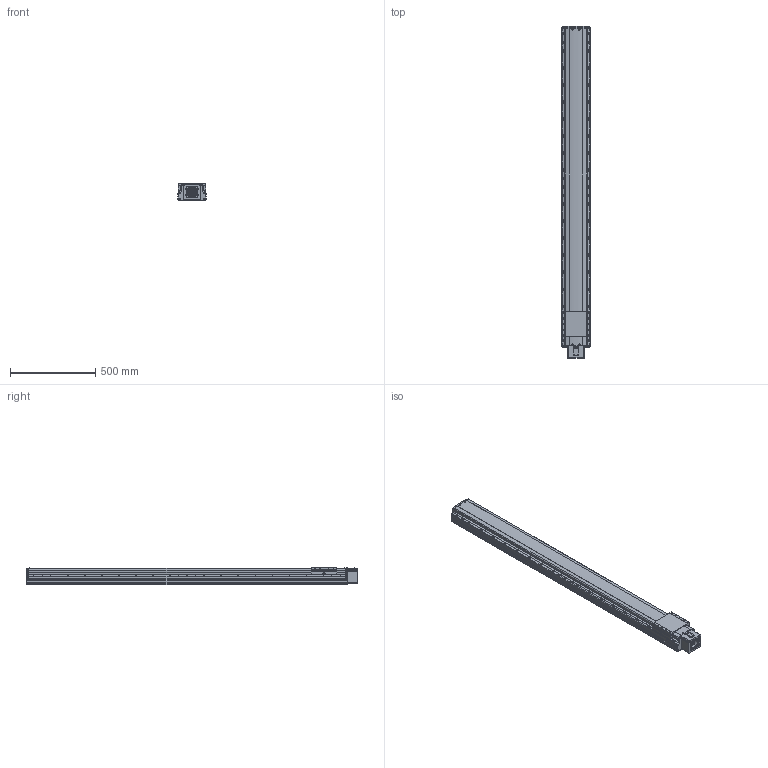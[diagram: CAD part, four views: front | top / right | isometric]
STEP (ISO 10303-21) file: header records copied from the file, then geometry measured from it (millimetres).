
FILE_DESCRIPTION(('STEP AP214'),'1');
FILE_NAME('Z:/Web/3D/PSA165/STP/PSA165-1600 (3D)/PSA165ㅁㅁ-1600S.stp','2014-06-24T11:02:58',(' '),(' '),'Spatial InterOp 3D',' ',' ');
FILE_SCHEMA(('automotive_design'));
Length unit declared in the file: millimetre
Products named in the file (67): 스크루 : Round - M4.0 x 12.0; RRCV-PA160; BASE; 스크루 : Round - M4.0 x 10.0; RN15; Screw 20; SLIDE; FRCV; 스크루 : Socket - M6.0 x 25.0; MTHZ-SAN150-80A; SSFX-SAN65; CPLCV-SAN65; 스크루 : Round - M3.0 x 6.0; SDWA47C(2); SDWA47C(3-1); SDWA47C(3); SDWA47C(1); SDWA47C(4); SDWA47C(5)
Bounding box: 165 x 1949.8 x 104 mm (x, y, z)
Volume: 26140174.6 mm3; surface area: 1598126.2 mm2
Topology: 67 solids, 67 shells, 3232 faces, 8651 edges, 5541 vertices
Faces by surface type: plane 1428, cylinder 1294, cone 401, sphere 50, bspline 35, torus 24
Entity records: 133059 total; most frequent: CARTESIAN_POINT 23685, DIRECTION 17923, ORIENTED_EDGE 16910, EDGE_CURVE 8455, AXIS2_PLACEMENT_3D 6549, VERTEX_POINT 5541, LINE 4825, VECTOR 4825
